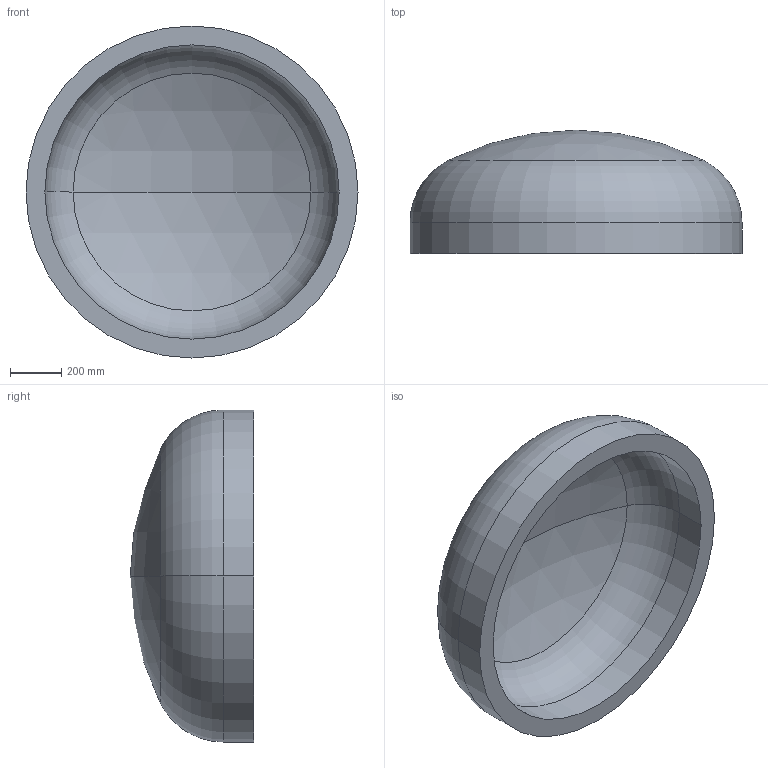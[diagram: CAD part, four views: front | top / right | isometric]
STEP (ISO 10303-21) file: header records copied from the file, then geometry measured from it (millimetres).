
FILE_DESCRIPTION (( 'STEP AP203' ), '1' );
FILE_NAME ('DIN 28013 Korbbogenform_-_Boden DIN 28013 - 1300 x 120 - I - s=74.step', '2016-07-01T09:58:09', ( '' ), ( '' ), 'SwSTEP 2.0', 'SolidWorks 2013', '' );
FILE_SCHEMA (( 'CONFIG_CONTROL_DESIGN' ));
Length unit declared in the file: millimetre
Products named in the file (1): DIN 28013 Korbbogenform_-_Boden DIN 28013 - 1300 x 120 - I - s=74
Bounding box: 1300 x 482.85 x 1300 mm (x, y, z)
Volume: 160668239.9 mm3; surface area: 4638870.6 mm2
Topology: 1 solids, 1 shells, 13 faces, 24 edges, 14 vertices
Faces by surface type: torus 4, cylinder 4, sphere 4, plane 1
Entity records: 407 total; most frequent: DIRECTION 72, CARTESIAN_POINT 52, ORIENTED_EDGE 48, AXIS2_PLACEMENT_3D 34, EDGE_CURVE 24, CIRCLE 20, VERTEX_POINT 14, EDGE_LOOP 14
